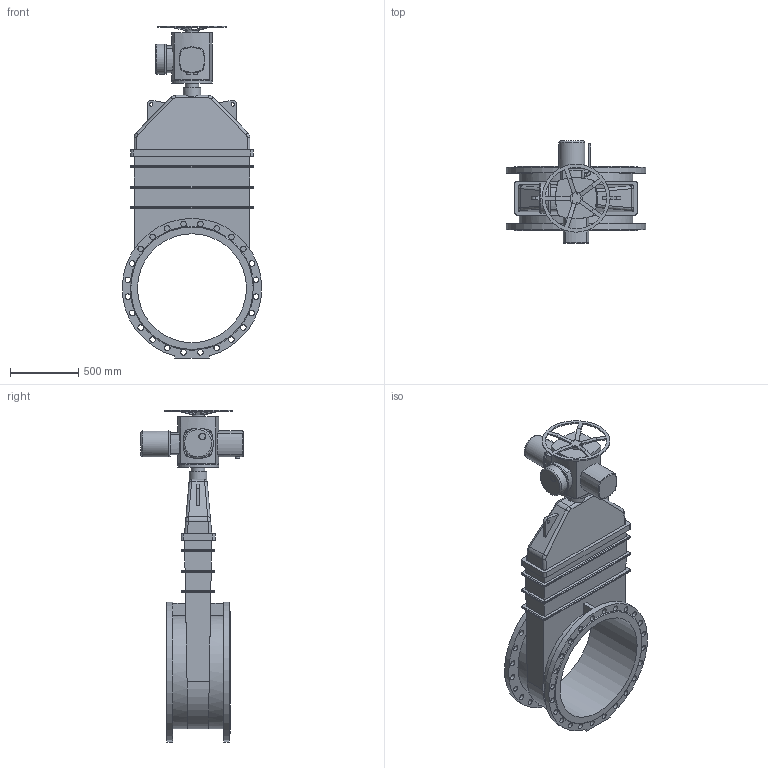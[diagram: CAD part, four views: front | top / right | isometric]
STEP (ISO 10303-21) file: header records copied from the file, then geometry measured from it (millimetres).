
FILE_DESCRIPTION(('STEP AP203'), '1');
FILE_NAME('青溻桄赅 47GVA DN800 PN10_PN16+MT903.Z90', '', ('UNSPECIFIED'), ('UNSPECIFIED'), 'ASCON STEP Converter 1.6', 'ASCON Math Kernel', '');
FILE_SCHEMA(('CONFIG_CONTROL_DESIGN'));
Length unit declared in the file: millimetre
Bounding box: 1024.26 x 750 x 2438.5 mm (x, y, z)
Volume: 257434589.7 mm3; surface area: 7756558.2 mm2
Topology: 2 solids, 2 shells, 416 faces, 1122 edges, 699 vertices
Faces by surface type: cylinder 202, plane 150, bspline 34, torus 19, cone 11
Full cylindrical faces by diameter (mm): 12 x8, 13.835 x8, 18 x8, 20 x2, 25 x2, 29.22 x1, 30 x1, 41 x48, 45 x1, 50 x2, 60 x1, 90 x1, 100 x1, 130 x1, 190 x1, 200 x2, 220 x1, 300 x2, 500 x1, 800 x1
Entity records: 20238 total; most frequent: CARTESIAN_POINT 6810, DIRECTION 2092, ORIENTED_EDGE 1938, EDGE_CURVE 969, AXIS2_PLACEMENT_3D 846, EDGE_LOOP 703, VERTEX_POINT 676, FACE_BOUND 515
